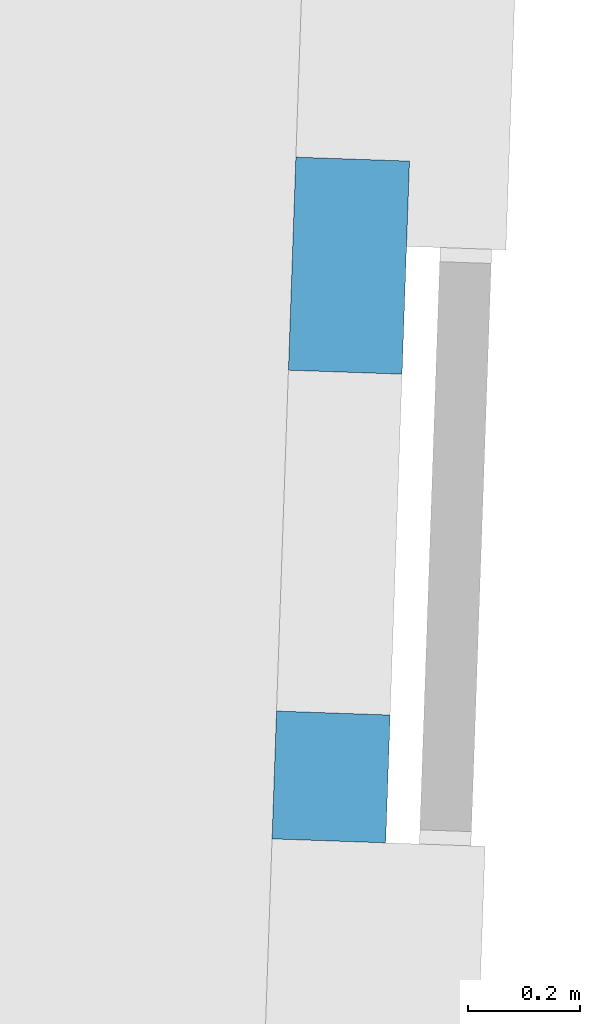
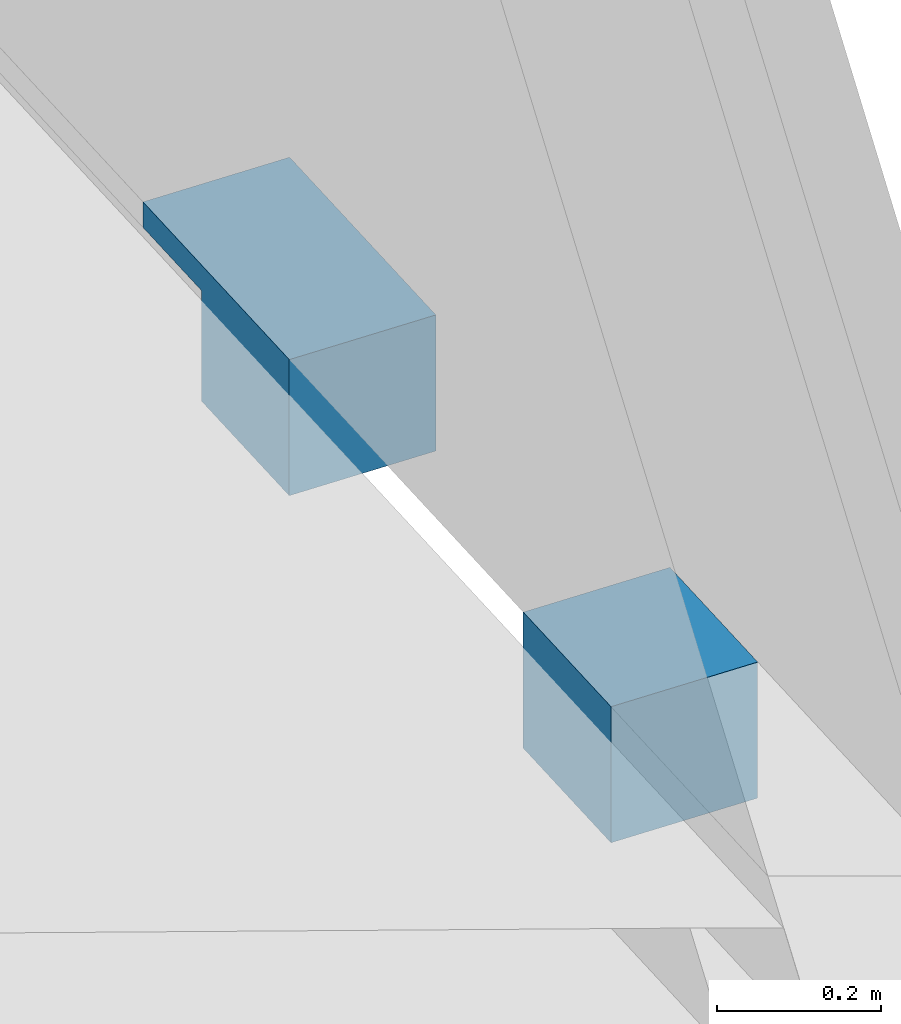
# One storey, part 5 of 7: 1 beam.
"""IFC2X3 building model written with IfcOpenShell, lengths in feet."""

from ifc_helpers import new_model, entity, si_unit, converted_unit, derived_unit, direction, frame, origin, place, context, subcontext, project, spatial, faceted_brep, material, element, save


model = new_model("IFC2X3")

# Units and contexts
model_context = context("Model", 3, precision=0.0001, world=origin(), true_north=direction((0.999390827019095, 0.0348994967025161)))
body_context = subcontext(model_context, "Body", "Model", "MODEL_VIEW")
ifc_project = project(units=[converted_unit("LENGTHUNIT", "FOOT", entity("IfcRatioMeasure", 0.3048), si_unit("LENGTHUNIT", "METRE"), dimensions=[1, 0, 0, 0, 0, 0, 0]), converted_unit("AREAUNIT", "SQUARE FOOT", entity("IfcRatioMeasure", 0.09290304), si_unit("AREAUNIT", "SQUARE_METRE"), dimensions=[2, 0, 0, 0, 0, 0, 0]), converted_unit("VOLUMEUNIT", "CUBIC FOOT", entity("IfcRatioMeasure", 0.028316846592), si_unit("VOLUMEUNIT", "CUBIC_METRE"), dimensions=[3, 0, 0, 0, 0, 0, 0]), converted_unit("PLANEANGLEUNIT", "DEGREE", entity("IfcRatioMeasure", 0.0174532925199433), si_unit("PLANEANGLEUNIT", "RADIAN"), dimensions=[0, 0, 0, 0, 0, 0, 0]), si_unit("MASSUNIT", "GRAM", prefix="KILO"), si_unit("TIMEUNIT", "SECOND"), si_unit("FREQUENCYUNIT", "HERTZ"), si_unit("THERMODYNAMICTEMPERATUREUNIT", "DEGREE_CELSIUS"), derived_unit("THERMALTRANSMITTANCEUNIT", [(si_unit("MASSUNIT", "GRAM", prefix="KILO"), 1), (si_unit("THERMODYNAMICTEMPERATUREUNIT", "KELVIN"), -1), (si_unit("TIMEUNIT", "SECOND"), -3)]), derived_unit("VOLUMETRICFLOWRATEUNIT", [(si_unit("LENGTHUNIT", "METRE"), 3), (si_unit("TIMEUNIT", "SECOND"), -1)]), si_unit("ELECTRICCURRENTUNIT", "AMPERE"), si_unit("ELECTRICVOLTAGEUNIT", "VOLT"), si_unit("POWERUNIT", "WATT"), si_unit("FORCEUNIT", "NEWTON"), si_unit("ILLUMINANCEUNIT", "LUX"), si_unit("LUMINOUSFLUXUNIT", "LUMEN"), si_unit("LUMINOUSINTENSITYUNIT", "CANDELA"), derived_unit("USERDEFINED", [(si_unit("MASSUNIT", "GRAM", prefix="KILO"), -1), (si_unit("LENGTHUNIT", "METRE"), -2), (si_unit("TIMEUNIT", "SECOND"), 3), (si_unit("LUMINOUSFLUXUNIT", "LUMEN"), 1)]), derived_unit("LINEARVELOCITYUNIT", [(si_unit("LENGTHUNIT", "METRE"), 1), (si_unit("TIMEUNIT", "SECOND"), -1)]), si_unit("PRESSUREUNIT", "PASCAL"), derived_unit("USERDEFINED", [(si_unit("LENGTHUNIT", "METRE"), -2), (si_unit("MASSUNIT", "GRAM", prefix="KILO"), 1), (si_unit("TIMEUNIT", "SECOND"), -2)])], contexts=[model_context])

# Site, building, storey
site_placement = place(None, frame((892.518771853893, 322.38689265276, 0.00393700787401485), z_axis=(0.0, 0.0, 1.0), x_axis=(0.0348994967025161, 0.999390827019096, 0.0)))
site = spatial("IfcSite", under=ifc_project, at=site_placement, Name="Default", CompositionType="ELEMENT")
building_placement = place(site_placement, origin())
building = spatial("IfcBuilding", under=site, at=building_placement, CompositionType="ELEMENT")
storey_placement = place(building_placement, frame((0.0, 0.0, 567.0)))
storey = spatial("IfcBuildingStorey", under=building, at=storey_placement, Name="Existing Garage - 2nd Level", CompositionType="ELEMENT", Elevation=567.0)

# Beam
ifc_material = material(Name="Concrete - Cast-in-Place Concrete")
beam_placement = place(storey_placement, frame((206.177293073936, 235.763953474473, -0.666666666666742)))
element("IfcBeam", 1, at=beam_placement, inside=storey, material=ifc_material, Name="Concrete-Rectangular Beam:8\" x 8\"w", ObjectType="Concrete-Rectangular Beam:8\" x 8\"w", context=body_context, shape_type="Brep", body=[
    faceted_brep([(4.0, 0.666666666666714, 0.666666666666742), (4.0, 0.0, 0.666666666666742), (4.0, 0.0, 0.541666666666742), (4.0, 0.666666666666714, 0.541666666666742), (2.74999999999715, 0.666666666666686, 0.666666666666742), (2.74999999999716, 0.0, 0.666666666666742), (3.49999999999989, 0.0, 0.666666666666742), (2.74999999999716, 0.0, 0.0), (3.49999999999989, 0.0, 0.0), (3.49999999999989, 0.0, 0.541666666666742), (2.74999999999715, 0.666666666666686, 0.0), (3.49999999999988, 0.666666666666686, 0.0), (3.49999999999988, 0.666666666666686, 0.541666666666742)], [[[0, 1, 2, 3]], [[1, 0, 4, 5, 6]], [[1, 6, 5, 7, 8, 9, 2]], [[7, 10, 11, 8]], [[10, 4, 0, 3, 12, 11]], [[5, 4, 10, 7]], [[9, 12, 3, 2]], [[12, 9, 8, 11]]]),
    faceted_brep([(0.749999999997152, 0.666666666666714, 0.666666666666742), (0.749999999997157, 0.0, 0.666666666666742), (0.749999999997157, 0.0, 0.0), (0.749999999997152, 0.666666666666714, 0.0), (0.0, 0.666666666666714, 0.0), (0.0, 0.666666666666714, 0.666666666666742), (0.0, 0.0, 0.666666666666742), (0.0, 0.0, 0.0)], [[[0, 1, 2, 3]], [[0, 3, 4, 5]], [[1, 0, 5, 6]], [[1, 6, 7, 2]], [[3, 2, 7, 4]], [[5, 4, 7, 6]]]),
])

save(model, "model.ifc")
